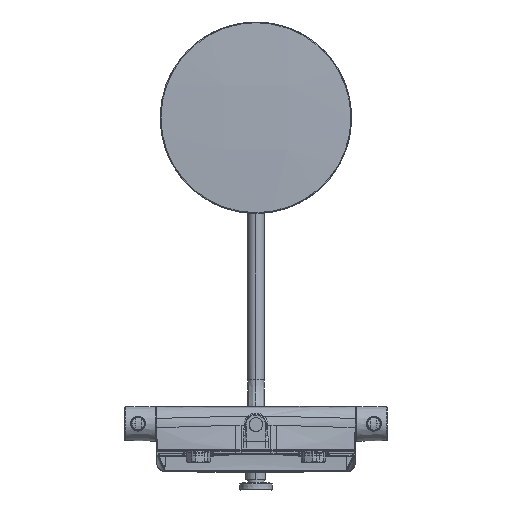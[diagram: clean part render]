
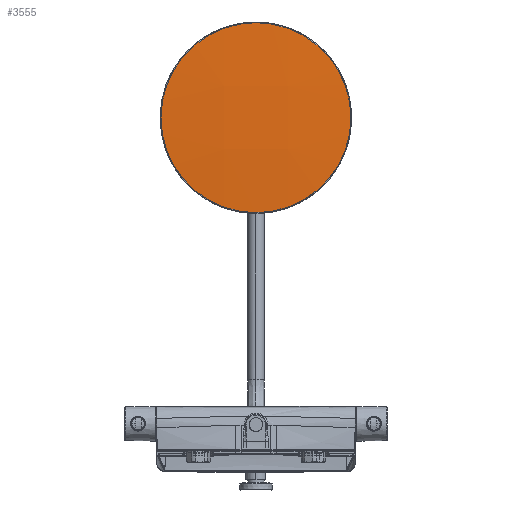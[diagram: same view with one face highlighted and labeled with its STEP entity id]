
A CAD part, front view. The second image highlights one B-rep face of the part: STEP entity #3555.
In plain terms, the highlighted free-form (B-spline) face has degree [3, 3] with [4, 4] control points.
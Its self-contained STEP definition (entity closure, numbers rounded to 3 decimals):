
#2972 = FACE_OUTER_BOUND ( 'NONE', #13900, .T. ) ;
#3555 = ADVANCED_FACE ( 'NONE', ( #2972 ), #13026, .T. ) ;
#3805 = ORIENTED_EDGE ( 'NONE', *, *, #29033, .T. ) ;
#4929 = CARTESIAN_POINT ( 'NONE',  ( -125.531, 1122.441, 273.415 ) ) ;
#5572 = DIRECTION ( 'NONE',  ( -1., 0., 0. ) ) ;
#6874 = CARTESIAN_POINT ( 'NONE',  ( -124.039, 1121.523, 399.265 ) ) ;
#7585 = CARTESIAN_POINT ( 'NONE',  ( 126.279, 1122.477, 273.416 ) ) ;
#10127 = CARTESIAN_POINT ( 'NONE',  ( 0., 1121.523, 399.265 ) ) ;
#13026 =( BOUNDED_SURFACE ( )  B_SPLINE_SURFACE ( 3, 3, ( 
 ( #33096, #14457, #27477, #7585 ),
 ( #30792, #14309, #37381, #17647 ),
 ( #40729, #20980, #31077, #34512 ),
 ( #18328, #18066, #37803, #4929 ) ),
 .UNSPECIFIED., .F., .F., .F. ) 
 B_SPLINE_SURFACE_WITH_KNOTS ( ( 4, 4 ),
 ( 4, 4 ),
 ( 0., 1. ),
 ( 0., 1. ),
 .UNSPECIFIED. ) 
 GEOMETRIC_REPRESENTATION_ITEM ( )  RATIONAL_B_SPLINE_SURFACE ( (
 ( 1., 0.999, 0.999, 1.),
 ( 0.999, 0.998, 0.998, 0.999),
 ( 0.999, 0.998, 0.998, 0.999),
 ( 1., 0.999, 0.999, 1.) ) ) 
 REPRESENTATION_ITEM ( '' )  SURFACE ( )  );
#13900 = EDGE_LOOP ( 'NONE', ( #31945, #3805 ) ) ;
#14309 = CARTESIAN_POINT ( 'NONE',  ( 42.375, 1117.283, 441.738 ) ) ;
#14457 = CARTESIAN_POINT ( 'NONE',  ( 126.279, 1121.354, 441.601 ) ) ;
#15785 = DIRECTION ( 'NONE',  ( 0., -1., 0.017 ) ) ;
#17647 = CARTESIAN_POINT ( 'NONE',  ( 42.375, 1118.408, 273.291 ) ) ;
#18066 = CARTESIAN_POINT ( 'NONE',  ( -125.531, 1121.318, 441.602 ) ) ;
#18328 = CARTESIAN_POINT ( 'NONE',  ( -125.531, 1126.867, 525.538 ) ) ;
#18819 = CARTESIAN_POINT ( 'NONE',  ( 0., 1121.523, 399.265 ) ) ;
#20980 = CARTESIAN_POINT ( 'NONE',  ( -41.627, 1117.271, 441.738 ) ) ;
#21130 = AXIS2_PLACEMENT_3D ( 'NONE', #10127, #40203, #33718 ) ;
#23090 = CIRCLE ( 'NONE', #21130, 124.039 ) ;
#27477 = CARTESIAN_POINT ( 'NONE',  ( 126.279, 1119.877, 357.495 ) ) ;
#27515 = CIRCLE ( 'NONE', #41337, 124.039 ) ;
#29033 = EDGE_CURVE ( 'NONE', #41653, #40467, #27515, .T. ) ;
#30792 = CARTESIAN_POINT ( 'NONE',  ( 42.375, 1122.841, 525.805 ) ) ;
#31077 = CARTESIAN_POINT ( 'NONE',  ( -41.627, 1115.792, 357.501 ) ) ;
#31945 = ORIENTED_EDGE ( 'NONE', *, *, #40982, .T. ) ;
#33096 = CARTESIAN_POINT ( 'NONE',  ( 126.279, 1126.903, 525.536 ) ) ;
#33718 = DIRECTION ( 'NONE',  ( -1., 0., 0. ) ) ;
#34512 = CARTESIAN_POINT ( 'NONE',  ( -41.627, 1118.396, 273.29 ) ) ;
#35034 = CARTESIAN_POINT ( 'NONE',  ( 124.039, 1121.523, 399.265 ) ) ;
#37381 = CARTESIAN_POINT ( 'NONE',  ( 42.375, 1115.804, 357.501 ) ) ;
#37803 = CARTESIAN_POINT ( 'NONE',  ( -125.531, 1119.841, 357.495 ) ) ;
#40203 = DIRECTION ( 'NONE',  ( 0., -1., 0.017 ) ) ;
#40467 = VERTEX_POINT ( 'NONE', #6874 ) ;
#40729 = CARTESIAN_POINT ( 'NONE',  ( -41.627, 1122.829, 525.805 ) ) ;
#40982 = EDGE_CURVE ( 'NONE', #40467, #41653, #23090, .T. ) ;
#41337 = AXIS2_PLACEMENT_3D ( 'NONE', #18819, #15785, #5572 ) ;
#41653 = VERTEX_POINT ( 'NONE', #35034 ) ;
